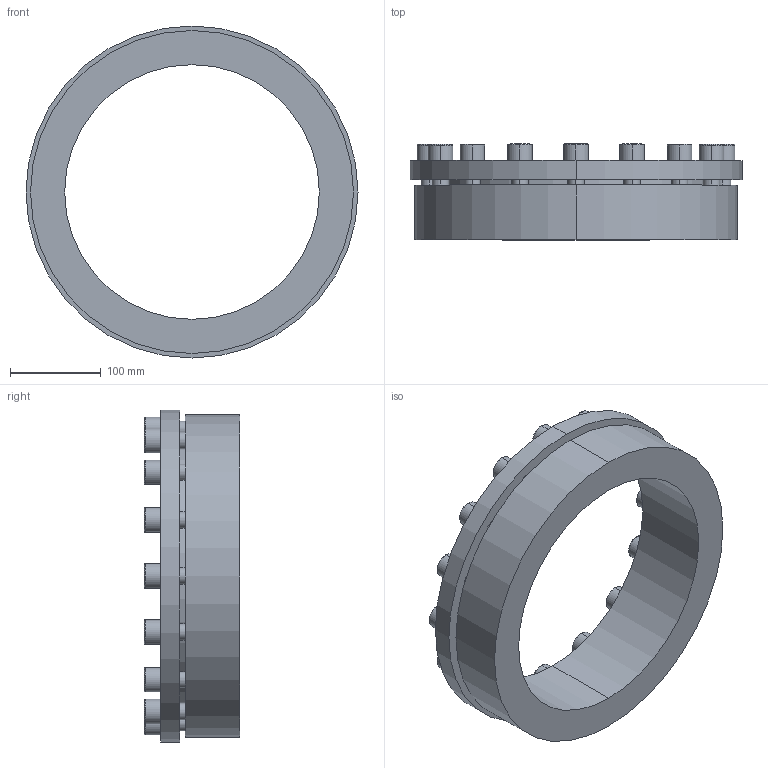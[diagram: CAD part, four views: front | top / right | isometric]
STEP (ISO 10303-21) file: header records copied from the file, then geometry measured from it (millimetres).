
FILE_DESCRIPTION (( 'STEP AP203' ), '1' );
FILE_NAME ('PL-H6 280-355.STEP', '2021-10-23T01:40:39', ( '' ), ( '' ), 'SwSTEP 2.0', 'SolidWorks 2018', '' );
FILE_SCHEMA (( 'CONFIG_CONTROL_DESIGN' ));
Length unit declared in the file: millimetre
Products named in the file (1): PL-H6 280-355
Bounding box: 365 x 105 x 365 mm (x, y, z)
Volume: 3353764 mm3; surface area: 348574.7 mm2
Topology: 1 solids, 1 shells, 236 faces, 568 edges, 368 vertices
Faces by surface type: plane 132, cylinder 72, torus 32
Entity records: 7029 total; most frequent: DIRECTION 1250, CARTESIAN_POINT 1173, ORIENTED_EDGE 1136, EDGE_CURVE 568, AXIS2_PLACEMENT_3D 445, VERTEX_POINT 368, LINE 360, VECTOR 360
